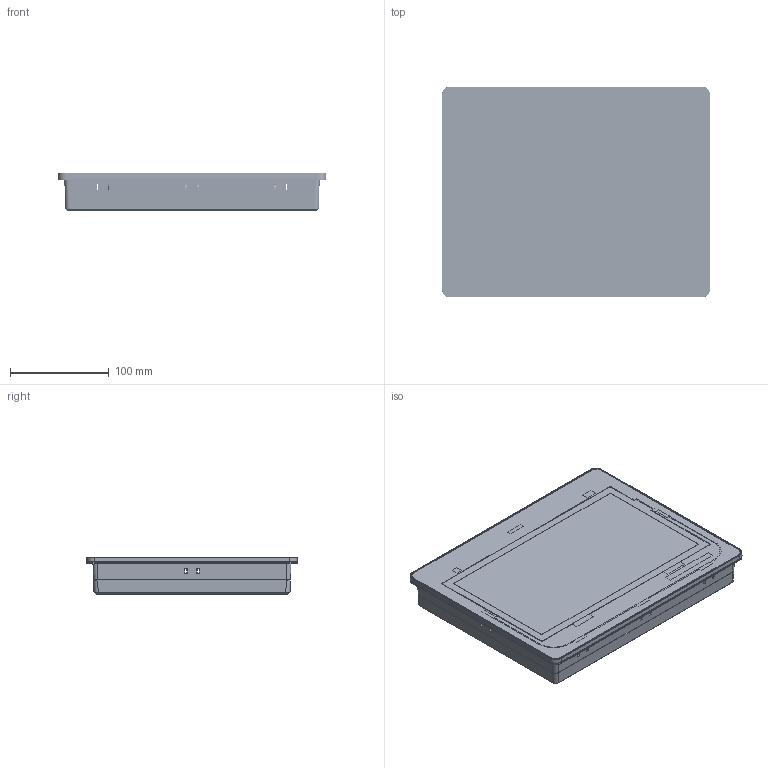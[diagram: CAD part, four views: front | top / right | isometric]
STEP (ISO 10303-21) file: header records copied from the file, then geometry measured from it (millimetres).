
FILE_DESCRIPTION (( 'STEP AP214' ), '1' );
FILE_NAME ('cMT3105X.STEP', '2023-12-06T06:25:45', ( '' ), ( '' ), 'SwSTEP 2.0', 'SolidWorks 2019', '' );
FILE_SCHEMA (( 'AUTOMOTIVE_DESIGN' ));
Length unit declared in the file: millimetre
Products named in the file (20): cMT3103X銘版_Pantone 400C; DN6110V01; WRJ5-08FPBRD-YG; PowerªO_PCBA_200507; FS103100T; 5EHDRC-XXP; FECBP5C10_201130; connector male; FEB3A2X10_210208; FEZ810I10_151021; RZ0280212; FS103006W; D-SUB (M); FEZ175250_151217; FS1030800; FEF3A3X10_200708; cMT3105X; RZ6050100; D-SUB (F); PCBA_更換鐵殼RJ45_230725
Assembly tree (27 placements, depth 3):
  cMT3105X
    FEF3A3X10_200708
    FEZ810I10_151021
    cMT3103X銘版_Pantone 400C
    FEZ175250_151217
    PCBA_更換鐵殼RJ45_230725
      D-SUB (F)
      D-SUB (M)
      DN6110V01
      connector male
      RZ0280212
      WRJ5-08FPBRD-YG  x2
    PowerªO_PCBA_200507
      5EHDRC-XXP
    FS103006W  x4
    FS1030800  x2
    FS103100T  x4
    RZ6050100
    FECBP5C10_201130
    FEB3A2X10_210208
Bounding box: 270.93 x 212.93 x 38 mm (x, y, z)
Volume: 304247.9 mm3; surface area: 435145.2 mm2
Topology: 53 solids, 147 shells, 6818 faces, 18558 edges, 11875 vertices
Faces by surface type: bspline 2604, plane 2602, cylinder 890, cone 443, torus 253, sphere 26
Entity records: 225746 total; most frequent: CARTESIAN_POINT 91420, ORIENTED_EDGE 29461, DIRECTION 19456, EDGE_CURVE 14870, VERTEX_POINT 9603, VECTOR 7536, LINE 7536, AXIS2_PLACEMENT_3D 5960
